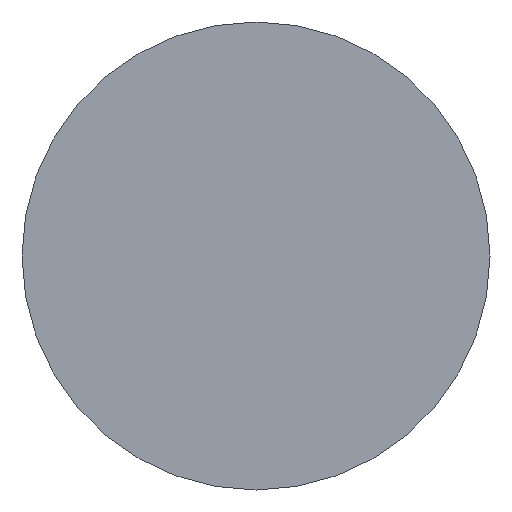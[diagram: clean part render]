
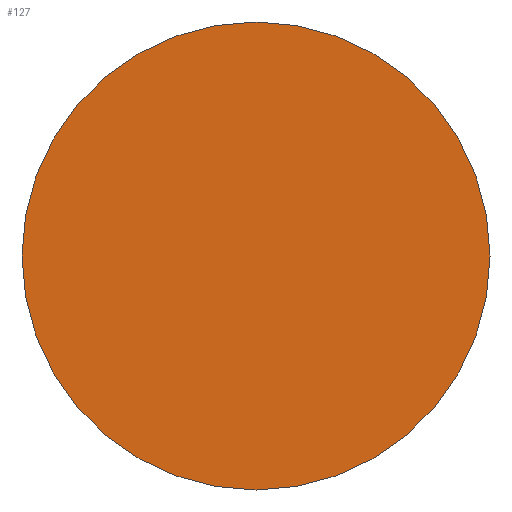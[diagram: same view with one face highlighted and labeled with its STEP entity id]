
A CAD part, front view. The second image highlights one B-rep face of the part: STEP entity #127.
In plain terms, the highlighted planar face has unit normal (0, -1, 0).
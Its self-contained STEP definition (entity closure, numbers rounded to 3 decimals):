
#49 = CYLINDRICAL_SURFACE('',#50,16.2);
#50 = AXIS2_PLACEMENT_3D('',#51,#52,#53);
#51 = CARTESIAN_POINT('',(0.,-35.58,46.5));
#52 = DIRECTION('',(0.,1.,0.));
#53 = DIRECTION('',(0.,-0.,1.));
#74 = VERTEX_POINT('',#75);
#75 = CARTESIAN_POINT('',(0.,-35.58,62.7));
#96 = EDGE_CURVE('',#74,#74,#97,.T.);
#97 = SURFACE_CURVE('',#98,(#103,#110),.PCURVE_S1.);
#98 = CIRCLE('',#99,16.2);
#99 = AXIS2_PLACEMENT_3D('',#100,#101,#102);
#100 = CARTESIAN_POINT('',(0.,-35.58,46.5));
#101 = DIRECTION('',(0.,1.,0.));
#102 = DIRECTION('',(0.,-0.,1.));
#103 = PCURVE('',#49,#104);
#104 = DEFINITIONAL_REPRESENTATION('',(#105),#109);
#105 = LINE('',#106,#107);
#106 = CARTESIAN_POINT('',(0.,0.));
#107 = VECTOR('',#108,1.);
#108 = DIRECTION('',(1.,0.));
#109 = ( GEOMETRIC_REPRESENTATION_CONTEXT(2) 
PARAMETRIC_REPRESENTATION_CONTEXT() REPRESENTATION_CONTEXT('2D SPACE',''
  ) );
#110 = PCURVE('',#111,#116);
#111 = PLANE('',#112);
#112 = AXIS2_PLACEMENT_3D('',#113,#114,#115);
#113 = CARTESIAN_POINT('',(0.,-35.58,46.5));
#114 = DIRECTION('',(0.,1.,0.));
#115 = DIRECTION('',(0.,-0.,1.));
#116 = DEFINITIONAL_REPRESENTATION('',(#117),#121);
#117 = CIRCLE('',#118,16.2);
#118 = AXIS2_PLACEMENT_2D('',#119,#120);
#119 = CARTESIAN_POINT('',(0.,0.));
#120 = DIRECTION('',(1.,0.));
#121 = ( GEOMETRIC_REPRESENTATION_CONTEXT(2) 
PARAMETRIC_REPRESENTATION_CONTEXT() REPRESENTATION_CONTEXT('2D SPACE',''
  ) );
#127 = ADVANCED_FACE('',(#128),#111,.F.);
#128 = FACE_BOUND('',#129,.T.);
#129 = EDGE_LOOP('',(#130));
#130 = ORIENTED_EDGE('',*,*,#96,.F.);
